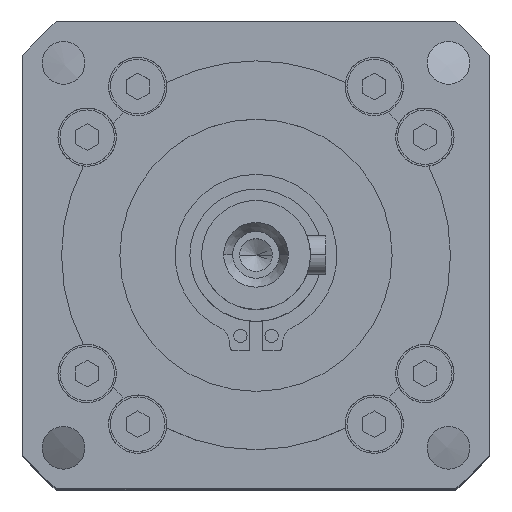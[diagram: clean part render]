
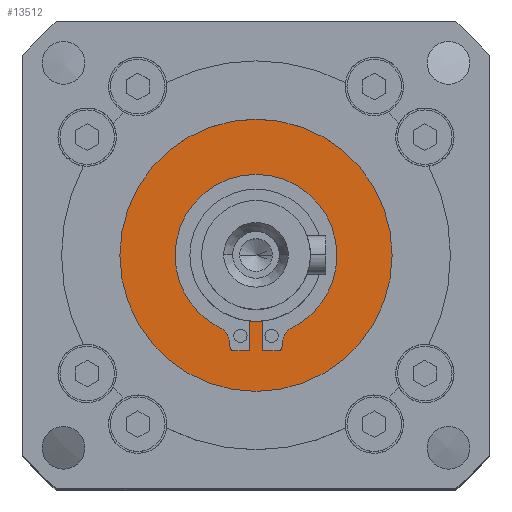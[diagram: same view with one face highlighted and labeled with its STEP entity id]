
A CAD part, top view. The second image highlights one B-rep face of the part: STEP entity #13512.
In plain terms, the highlighted planar face has unit normal (0, 0, 1).
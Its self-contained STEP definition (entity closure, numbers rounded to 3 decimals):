
#47 = VERTEX_POINT ( 'NONE', #20656 ) ;
#78 = CARTESIAN_POINT ( 'NONE',  ( -2.85, -12.257, -1. ) ) ;
#499 = CIRCLE ( 'NONE', #6319, 2.5 ) ;
#690 = DIRECTION ( 'NONE',  ( -1., 0., 0. ) ) ;
#759 = DIRECTION ( 'NONE',  ( -1., 0., 0. ) ) ;
#915 = CARTESIAN_POINT ( 'NONE',  ( 4.716, -9.269, -1. ) ) ;
#1385 = FACE_BOUND ( 'NONE', #13310, .T. ) ;
#1441 = LINE ( 'NONE', #14722, #9278 ) ;
#1451 = ORIENTED_EDGE ( 'NONE', *, *, #8548, .F. ) ;
#1533 = PLANE ( 'NONE',  #11770 ) ;
#1552 = AXIS2_PLACEMENT_3D ( 'NONE', #12555, #2548, #14201 ) ;
#1859 = EDGE_CURVE ( 'NONE', #16492, #15347, #8266, .T. ) ;
#1937 = VERTEX_POINT ( 'NONE', #3900 ) ;
#2231 = CARTESIAN_POINT ( 'NONE',  ( 0., 0., -1. ) ) ;
#2333 = CIRCLE ( 'NONE', #15443, 2.5 ) ;
#2415 = CARTESIAN_POINT ( 'NONE',  ( 0.85, -12.257, -1. ) ) ;
#2469 = CARTESIAN_POINT ( 'NONE',  ( -0.85, -12.257, -1. ) ) ;
#2548 = DIRECTION ( 'NONE',  ( 0., 0., 1. ) ) ;
#2570 = VERTEX_POINT ( 'NONE', #15810 ) ;
#3044 = ORIENTED_EDGE ( 'NONE', *, *, #8937, .F. ) ;
#3161 = VECTOR ( 'NONE', #14132, 1000. ) ;
#3219 = DIRECTION ( 'NONE',  ( 0., 0., -1. ) ) ;
#3356 = EDGE_CURVE ( 'NONE', #3414, #13299, #1441, .T. ) ;
#3414 = VERTEX_POINT ( 'NONE', #16395 ) ;
#3448 = CARTESIAN_POINT ( 'NONE',  ( 3.35, -11.497, -1. ) ) ;
#3789 = VECTOR ( 'NONE', #15993, 1000. ) ;
#3875 = DIRECTION ( 'NONE',  ( 0., 0., -1. ) ) ;
#3889 = DIRECTION ( 'NONE',  ( -1., 0., 0. ) ) ;
#3900 = CARTESIAN_POINT ( 'NONE',  ( 10.4, 0., -1. ) ) ;
#3904 = ORIENTED_EDGE ( 'NONE', *, *, #8808, .F. ) ;
#3911 = ORIENTED_EDGE ( 'NONE', *, *, #1859, .F. ) ;
#4273 = DIRECTION ( 'NONE',  ( 0., 0., 1. ) ) ;
#4412 = ORIENTED_EDGE ( 'NONE', *, *, #3356, .F. ) ;
#4516 = ORIENTED_EDGE ( 'NONE', *, *, #11179, .F. ) ;
#4762 = DIRECTION ( 'NONE',  ( 0., -1., 0. ) ) ;
#4888 = ORIENTED_EDGE ( 'NONE', *, *, #17761, .T. ) ;
#5109 = EDGE_CURVE ( 'NONE', #19214, #17812, #6104, .T. ) ;
#5211 = VERTEX_POINT ( 'NONE', #5429 ) ;
#5245 = CARTESIAN_POINT ( 'NONE',  ( 0., 0., -1. ) ) ;
#5429 = CARTESIAN_POINT ( 'NONE',  ( 17.5, 0., -1. ) ) ;
#5530 = CIRCLE ( 'NONE', #19397, 10.4 ) ;
#5627 = EDGE_CURVE ( 'NONE', #10905, #1937, #10518, .T. ) ;
#6022 = CIRCLE ( 'NONE', #1552, 0.5 ) ;
#6104 = LINE ( 'NONE', #11000, #9502 ) ;
#6319 = AXIS2_PLACEMENT_3D ( 'NONE', #13909, #3875, #15535 ) ;
#6473 = CIRCLE ( 'NONE', #6893, 0.5 ) ;
#6510 = DIRECTION ( 'NONE',  ( 0., 0., -1. ) ) ;
#6625 = CARTESIAN_POINT ( 'NONE',  ( 2.85, -11.757, -1. ) ) ;
#6747 = EDGE_CURVE ( 'NONE', #47, #2570, #17454, .T. ) ;
#6891 = ORIENTED_EDGE ( 'NONE', *, *, #5627, .F. ) ;
#6893 = AXIS2_PLACEMENT_3D ( 'NONE', #6625, #18192, #8267 ) ;
#6954 = DIRECTION ( 'NONE',  ( -1., 0., 0. ) ) ;
#7267 = AXIS2_PLACEMENT_3D ( 'NONE', #14264, #4273, #15931 ) ;
#7464 = CARTESIAN_POINT ( 'NONE',  ( 0., 0., -1. ) ) ;
#7534 = VECTOR ( 'NONE', #17194, 1000. ) ;
#8207 = ORIENTED_EDGE ( 'NONE', *, *, #5109, .F. ) ;
#8266 = LINE ( 'NONE', #14338, #3789 ) ;
#8267 = DIRECTION ( 'NONE',  ( 1., 0., 0. ) ) ;
#8470 = ORIENTED_EDGE ( 'NONE', *, *, #19128, .F. ) ;
#8519 = CARTESIAN_POINT ( 'NONE',  ( -0.85, -12.257, -1. ) ) ;
#8548 = EDGE_CURVE ( 'NONE', #13299, #16351, #6022, .T. ) ;
#8805 = VERTEX_POINT ( 'NONE', #19678 ) ;
#8808 = EDGE_CURVE ( 'NONE', #15040, #3414, #2333, .T. ) ;
#8937 = EDGE_CURVE ( 'NONE', #16351, #47, #18971, .T. ) ;
#9032 = EDGE_CURVE ( 'NONE', #5211, #17502, #11460, .T. ) ;
#9135 = DIRECTION ( 'NONE',  ( -1., 0., 0. ) ) ;
#9137 = VECTOR ( 'NONE', #16793, 1000. ) ;
#9278 = VECTOR ( 'NONE', #4762, 1000. ) ;
#9496 = AXIS2_PLACEMENT_3D ( 'NONE', #2231, #13918, #3889 ) ;
#9502 = VECTOR ( 'NONE', #19218, 1000. ) ;
#9925 = EDGE_CURVE ( 'NONE', #15347, #10905, #499, .T. ) ;
#10518 = CIRCLE ( 'NONE', #7267, 10.4 ) ;
#10671 = DIRECTION ( 'NONE',  ( 0., 0., 1. ) ) ;
#10744 = DIRECTION ( 'NONE',  ( 0., 0., 1. ) ) ;
#10874 = CARTESIAN_POINT ( 'NONE',  ( -10.4, 0., -1. ) ) ;
#10905 = VERTEX_POINT ( 'NONE', #915 ) ;
#11000 = CARTESIAN_POINT ( 'NONE',  ( 0.85, -12.257, -1. ) ) ;
#11179 = EDGE_CURVE ( 'NONE', #8805, #16492, #6473, .T. ) ;
#11460 = CIRCLE ( 'NONE', #9496, 17.5 ) ;
#11770 = AXIS2_PLACEMENT_3D ( 'NONE', #13155, #3219, #14855 ) ;
#11939 = CIRCLE ( 'NONE', #13951, 8.5 ) ;
#12239 = ORIENTED_EDGE ( 'NONE', *, *, #19153, .F. ) ;
#12346 = CARTESIAN_POINT ( 'NONE',  ( 0.85, -12.257, -1. ) ) ;
#12382 = CARTESIAN_POINT ( 'NONE',  ( 3.35, -11.757, -1. ) ) ;
#12555 = CARTESIAN_POINT ( 'NONE',  ( -2.85, -11.757, -1. ) ) ;
#12558 = CARTESIAN_POINT ( 'NONE',  ( 0.85, -8.457, -1. ) ) ;
#13155 = CARTESIAN_POINT ( 'NONE',  ( 0., 0., -1. ) ) ;
#13299 = VERTEX_POINT ( 'NONE', #16083 ) ;
#13310 = EDGE_LOOP ( 'NONE', ( #15435, #3044, #1451, #4412, #3904, #15593, #18098, #6891, #19740, #3911, #4516, #8470, #8207, #12239 ) ) ;
#13512 = ADVANCED_FACE ( 'NONE', ( #16999, #1385 ), #1533, .F. ) ;
#13782 = AXIS2_PLACEMENT_3D ( 'NONE', #7464, #19040, #9135 ) ;
#13909 = CARTESIAN_POINT ( 'NONE',  ( 5.85, -11.497, -1. ) ) ;
#13918 = DIRECTION ( 'NONE',  ( 0., 0., 1. ) ) ;
#13951 = AXIS2_PLACEMENT_3D ( 'NONE', #20646, #10744, #759 ) ;
#14132 = DIRECTION ( 'NONE',  ( 0., 1., 0. ) ) ;
#14201 = DIRECTION ( 'NONE',  ( -1., 0., 0. ) ) ;
#14232 = EDGE_CURVE ( 'NONE', #1937, #19239, #16195, .T. ) ;
#14264 = CARTESIAN_POINT ( 'NONE',  ( 0., 0., -1. ) ) ;
#14271 = AXIS2_PLACEMENT_3D ( 'NONE', #20582, #10671, #690 ) ;
#14312 = ORIENTED_EDGE ( 'NONE', *, *, #9032, .T. ) ;
#14338 = CARTESIAN_POINT ( 'NONE',  ( 3.35, -11.757, -1. ) ) ;
#14722 = CARTESIAN_POINT ( 'NONE',  ( -3.35, -11.757, -1. ) ) ;
#14727 = EDGE_CURVE ( 'NONE', #19239, #15040, #5530, .T. ) ;
#14781 = CARTESIAN_POINT ( 'NONE',  ( -17.5, 0., -1. ) ) ;
#14855 = DIRECTION ( 'NONE',  ( 0., -1., 0. ) ) ;
#15040 = VERTEX_POINT ( 'NONE', #17844 ) ;
#15347 = VERTEX_POINT ( 'NONE', #3448 ) ;
#15435 = ORIENTED_EDGE ( 'NONE', *, *, #6747, .F. ) ;
#15443 = AXIS2_PLACEMENT_3D ( 'NONE', #16448, #6510, #18097 ) ;
#15535 = DIRECTION ( 'NONE',  ( 1., 0., 0. ) ) ;
#15579 = EDGE_LOOP ( 'NONE', ( #14312, #4888 ) ) ;
#15593 = ORIENTED_EDGE ( 'NONE', *, *, #14727, .F. ) ;
#15810 = CARTESIAN_POINT ( 'NONE',  ( -0.85, -8.457, -1. ) ) ;
#15931 = DIRECTION ( 'NONE',  ( -1., 0., 0. ) ) ;
#15993 = DIRECTION ( 'NONE',  ( 0., 1., 0. ) ) ;
#16083 = CARTESIAN_POINT ( 'NONE',  ( -3.35, -11.757, -1. ) ) ;
#16195 = CIRCLE ( 'NONE', #14271, 10.4 ) ;
#16351 = VERTEX_POINT ( 'NONE', #78 ) ;
#16395 = CARTESIAN_POINT ( 'NONE',  ( -3.35, -11.497, -1. ) ) ;
#16448 = CARTESIAN_POINT ( 'NONE',  ( -5.85, -11.497, -1. ) ) ;
#16492 = VERTEX_POINT ( 'NONE', #12382 ) ;
#16793 = DIRECTION ( 'NONE',  ( 1., 0., 0. ) ) ;
#16878 = DIRECTION ( 'NONE',  ( 0., 0., 1. ) ) ;
#16999 = FACE_OUTER_BOUND ( 'NONE', #15579, .T. ) ;
#17194 = DIRECTION ( 'NONE',  ( 1., 0., 0. ) ) ;
#17454 = LINE ( 'NONE', #2469, #3161 ) ;
#17502 = VERTEX_POINT ( 'NONE', #14781 ) ;
#17761 = EDGE_CURVE ( 'NONE', #17502, #5211, #21307, .T. ) ;
#17812 = VERTEX_POINT ( 'NONE', #2415 ) ;
#17844 = CARTESIAN_POINT ( 'NONE',  ( -4.716, -9.269, -1. ) ) ;
#18097 = DIRECTION ( 'NONE',  ( -1., 0., 0. ) ) ;
#18098 = ORIENTED_EDGE ( 'NONE', *, *, #14232, .F. ) ;
#18192 = DIRECTION ( 'NONE',  ( 0., 0., 1. ) ) ;
#18971 = LINE ( 'NONE', #8519, #9137 ) ;
#19040 = DIRECTION ( 'NONE',  ( 0., 0., 1. ) ) ;
#19128 = EDGE_CURVE ( 'NONE', #17812, #8805, #20736, .T. ) ;
#19153 = EDGE_CURVE ( 'NONE', #2570, #19214, #11939, .T. ) ;
#19214 = VERTEX_POINT ( 'NONE', #12558 ) ;
#19218 = DIRECTION ( 'NONE',  ( 0., -1., 0. ) ) ;
#19239 = VERTEX_POINT ( 'NONE', #10874 ) ;
#19397 = AXIS2_PLACEMENT_3D ( 'NONE', #5245, #16878, #6954 ) ;
#19678 = CARTESIAN_POINT ( 'NONE',  ( 2.85, -12.257, -1. ) ) ;
#19740 = ORIENTED_EDGE ( 'NONE', *, *, #9925, .F. ) ;
#20582 = CARTESIAN_POINT ( 'NONE',  ( 0., 0., -1. ) ) ;
#20646 = CARTESIAN_POINT ( 'NONE',  ( 0., 0., -1. ) ) ;
#20656 = CARTESIAN_POINT ( 'NONE',  ( -0.85, -12.257, -1. ) ) ;
#20736 = LINE ( 'NONE', #12346, #7534 ) ;
#21307 = CIRCLE ( 'NONE', #13782, 17.5 ) ;
